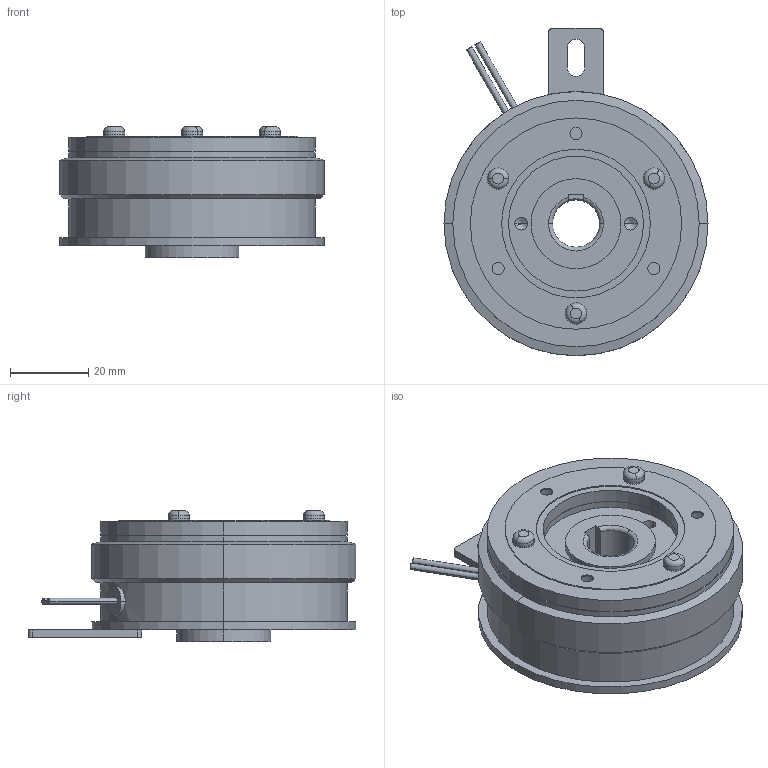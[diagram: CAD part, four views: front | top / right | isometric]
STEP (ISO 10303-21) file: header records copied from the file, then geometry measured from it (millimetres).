
FILE_DESCRIPTION (( 'STEP AP214' ), '1' );
FILE_NAME ('CS-06-33G 12DIN.STEP', '2018-02-02T04:29:07', ( 'MIKI' ), ( '' ), 'SwSTEP 2.0', 'SolidWorks 2012', '' );
FILE_SCHEMA (( 'AUTOMOTIVE_DESIGN' ));
Length unit declared in the file: millimetre
Products named in the file (1): CS-06-33G 12DIN
Bounding box: 67.5 x 83.75 x 33.5 mm (x, y, z)
Volume: 85551.4 mm3; surface area: 23863.6 mm2
Topology: 1 solids, 3 shells, 147 faces, 316 edges, 198 vertices
Faces by surface type: cylinder 75, plane 42, cone 18, torus 12
Entity records: 5763 total; most frequent: DIRECTION 786, CARTESIAN_POINT 760, ORIENTED_EDGE 624, AXIS2_PLACEMENT_3D 332, EDGE_CURVE 312, VERTEX_POINT 198, CIRCLE 184, EDGE_LOOP 182
